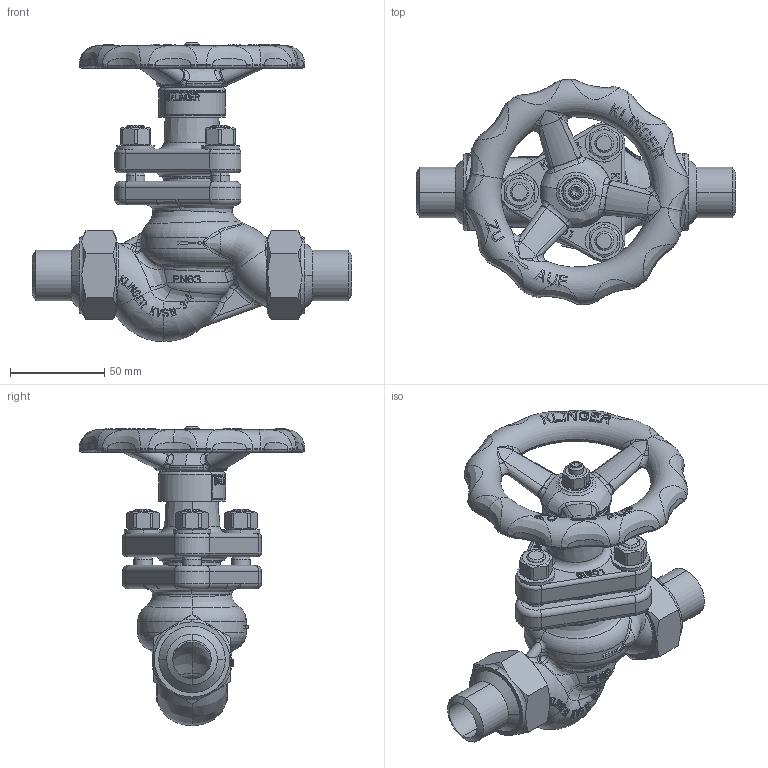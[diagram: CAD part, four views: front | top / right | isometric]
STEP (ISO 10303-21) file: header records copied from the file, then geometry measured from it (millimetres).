
FILE_DESCRIPTION((''),'2;1');
FILE_NAME('KVSN-020S-----P063PGG_SW0001','2015-07-09T',('jeitlers'),('RAND'),'PRO/ENGINEER BY PARAMETRIC TECHNOLOGY CORPORATION, 2013410','PRO/ENGINEER BY PARAMETRIC TECHNOLOGY CORPORATION, 2013410','');
FILE_SCHEMA(('CONFIG_CONTROL_DESIGN'));
Length unit declared in the file: millimetre
Products named in the file (1): KVSN-020S-----P063PGG_SW0001
Bounding box: 170 x 119.87 x 159.25 mm (x, y, z)
Volume: 310573.4 mm3; surface area: 111325.1 mm2
Topology: 2 solids, 4 shells, 2707 faces, 7308 edges, 4711 vertices
Faces by surface type: plane 1678, bspline 399, cylinder 312, cone 151, torus 146, extrusion 15, sphere 6
Entity records: 148592 total; most frequent: CARTESIAN_POINT 86353, ORIENTED_EDGE 14612, DIRECTION 10394, EDGE_CURVE 7306, VERTEX_POINT 4711, AXIS2_PLACEMENT_3D 3470, VECTOR 3454, LINE 3439
